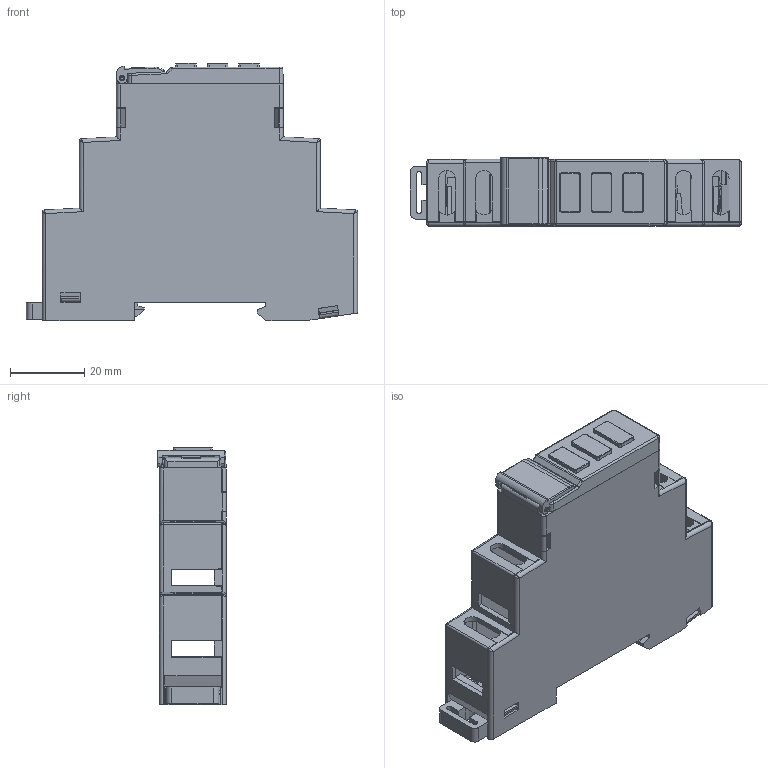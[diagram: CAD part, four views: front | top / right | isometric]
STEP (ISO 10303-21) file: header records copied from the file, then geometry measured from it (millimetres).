
FILE_DESCRIPTION( ( 'Unknown' ), '1' );
FILE_NAME( 'Z:/GIC/Marketing requirement/3D drawing to Altech - SGA/1M THREE PHASE INDICTER/1M THREE PHASE INDICTER.stp', 'Unknown', ( 'Unknown' ), ( 'Unknown' ), 'PSStep 17.0.49', 'Unknown', ' ' );
FILE_SCHEMA( ( 'AUTOMOTIVE_DESIGN { 1 0 10303 214 1 1 1 1 }' ) );
Length unit declared in the file: millimetre
Products named in the file (8): 1; BOTTOM; TOP; MF1024_25_26_28_33_47REV_03_CAP_1M 3 PHASE INDICATOR; MF1027_REV_02_COVER_1M_3_PHASE_INDICATOR; MF1022_23_REV_07_FRONT PLATE_1M 3 PHASE INDICATOR
Bounding box: 89.25 x 18.41 x 69.35 mm (x, y, z)
Volume: 18310.5 mm3; surface area: 33248.2 mm2
Topology: 8 solids, 8 shells, 970 faces, 2729 edges, 1771 vertices
Faces by surface type: plane 776, cylinder 139, cone 25, bspline 20, torus 7, sphere 3
Full cylindrical faces by diameter (mm): 1.4 x2, 1.45 x2, 1.9 x1
Entity records: 41057 total; most frequent: CARTESIAN_POINT 8192, ORIENTED_EDGE 5376, DIRECTION 4930, EDGE_CURVE 2688, LINE 2320, VECTOR 2320, VERTEX_POINT 1757, AXIS2_PLACEMENT_3D 1305
